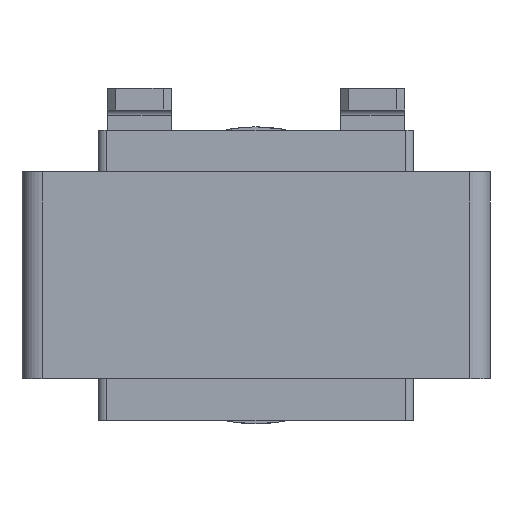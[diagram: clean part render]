
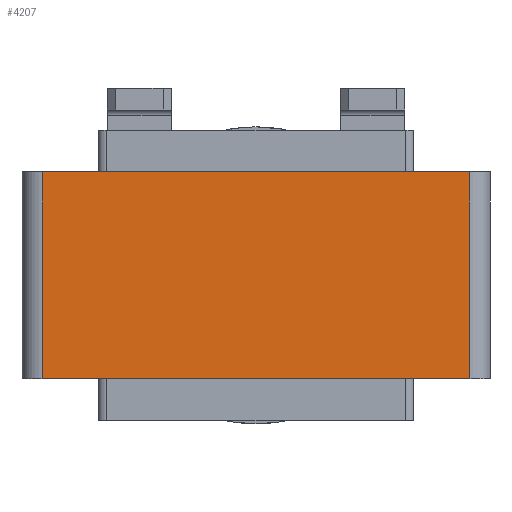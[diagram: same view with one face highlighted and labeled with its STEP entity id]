
A CAD part, front view. The second image highlights one B-rep face of the part: STEP entity #4207.
In plain terms, the highlighted planar face has unit normal (0, -1, 0).
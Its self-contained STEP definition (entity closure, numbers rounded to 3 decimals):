
#387 = CARTESIAN_POINT ( 'NONE',  ( -25.43, -11.791, -12.3 ) ) ;
#778 = VECTOR ( 'NONE', #8276, 1000. ) ;
#1166 = LINE ( 'NONE', #7568, #7398 ) ;
#1803 = ORIENTED_EDGE ( 'NONE', *, *, #14012, .F. ) ;
#1818 = FACE_OUTER_BOUND ( 'NONE', #5430, .T. ) ;
#1888 = VECTOR ( 'NONE', #4828, 1000. ) ;
#2912 = LINE ( 'NONE', #4714, #1888 ) ;
#3126 = VERTEX_POINT ( 'NONE', #10071 ) ;
#3174 = VECTOR ( 'NONE', #10578, 1000. ) ;
#3971 = EDGE_CURVE ( 'NONE', #4998, #3126, #6381, .T. ) ;
#3981 = LINE ( 'NONE', #15730, #3174 ) ;
#4207 = ADVANCED_FACE ( 'NONE', ( #1818 ), #14709, .F. ) ;
#4714 = CARTESIAN_POINT ( 'NONE',  ( -25.43, -11.791, 12.3 ) ) ;
#4719 = CARTESIAN_POINT ( 'NONE',  ( 25.43, -11.791, 12.3 ) ) ;
#4828 = DIRECTION ( 'NONE',  ( 1., 0., 0. ) ) ;
#4998 = VERTEX_POINT ( 'NONE', #10285 ) ;
#5430 = EDGE_LOOP ( 'NONE', ( #10592, #6623, #1803, #5724 ) ) ;
#5724 = ORIENTED_EDGE ( 'NONE', *, *, #10323, .T. ) ;
#6381 = LINE ( 'NONE', #387, #778 ) ;
#6623 = ORIENTED_EDGE ( 'NONE', *, *, #13000, .F. ) ;
#6824 = CARTESIAN_POINT ( 'NONE',  ( -25.43, -11.791, 12.3 ) ) ;
#7398 = VECTOR ( 'NONE', #13151, 1000. ) ;
#7568 = CARTESIAN_POINT ( 'NONE',  ( -25.43, -11.791, 12.3 ) ) ;
#7983 = DIRECTION ( 'NONE',  ( 0., 0., 1. ) ) ;
#8276 = DIRECTION ( 'NONE',  ( 1., 0., 0. ) ) ;
#8342 = VERTEX_POINT ( 'NONE', #12930 ) ;
#9781 = VERTEX_POINT ( 'NONE', #4719 ) ;
#10071 = CARTESIAN_POINT ( 'NONE',  ( 25.43, -11.791, -12.3 ) ) ;
#10285 = CARTESIAN_POINT ( 'NONE',  ( -25.43, -11.791, -12.3 ) ) ;
#10323 = EDGE_CURVE ( 'NONE', #8342, #4998, #1166, .T. ) ;
#10578 = DIRECTION ( 'NONE',  ( 0., 0., -1. ) ) ;
#10592 = ORIENTED_EDGE ( 'NONE', *, *, #3971, .T. ) ;
#11967 = DIRECTION ( 'NONE',  ( 0., 1., 0. ) ) ;
#12930 = CARTESIAN_POINT ( 'NONE',  ( -25.43, -11.791, 12.3 ) ) ;
#13000 = EDGE_CURVE ( 'NONE', #9781, #3126, #3981, .T. ) ;
#13151 = DIRECTION ( 'NONE',  ( 0., 0., -1. ) ) ;
#14012 = EDGE_CURVE ( 'NONE', #8342, #9781, #2912, .T. ) ;
#14709 = PLANE ( 'NONE',  #15829 ) ;
#15730 = CARTESIAN_POINT ( 'NONE',  ( 25.43, -11.791, 12.3 ) ) ;
#15829 = AXIS2_PLACEMENT_3D ( 'NONE', #6824, #11967, #7983 ) ;
